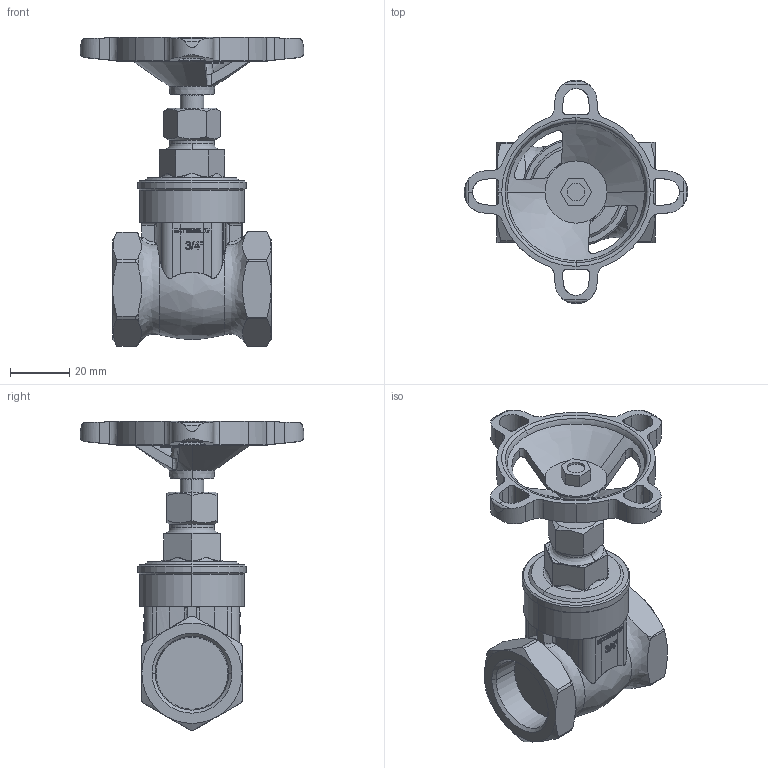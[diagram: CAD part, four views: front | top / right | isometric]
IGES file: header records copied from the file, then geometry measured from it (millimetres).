
Global section: file name: No Iges File Name specified; native system: AutoDesk Inventor R12.0; preprocessor: AutoDesk Inventor Iges Exporter R12.0; date: 20110310.135317; units: millimetre
Bounding box: 75.5 x 75.5 x 104.52 mm (x, y, z)
Volume: 78491.9 mm3; surface area: 23329.4 mm2
Topology: 1 solids, 1 shells, 771 faces, 2119 edges, 1352 vertices
Faces by surface type: plane 294, bspline 252, cylinder 105, revolution 52, cone 34, torus 34
